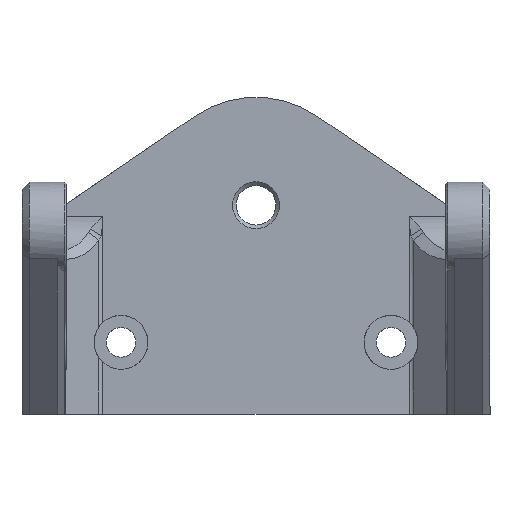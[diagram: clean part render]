
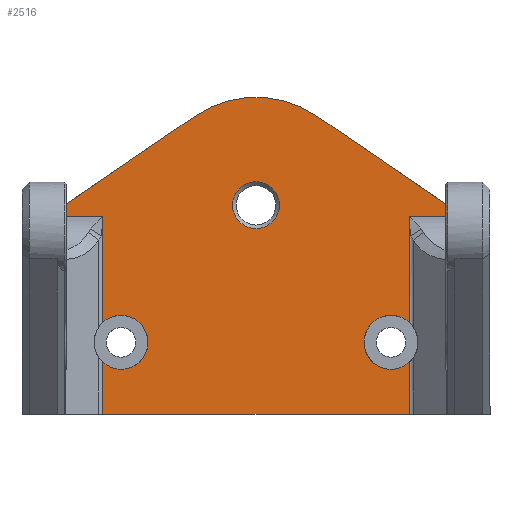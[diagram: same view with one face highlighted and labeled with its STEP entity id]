
A CAD part, top view. The second image highlights one B-rep face of the part: STEP entity #2516.
In plain terms, the highlighted planar face has unit normal (0, 0, 1).
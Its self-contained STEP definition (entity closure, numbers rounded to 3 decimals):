
#169=FACE_BOUND('',#411,.T.);
#183=PLANE('',#2707);
#251=FACE_OUTER_BOUND('',#410,.T.);
#410=EDGE_LOOP('',(#1788,#1789,#1790,#1791,#1792,#1793,#1794,#1795,#1796,
#1797,#1798,#1799,#1800));
#411=EDGE_LOOP('',(#1801));
#589=LINE('',#3775,#794);
#590=LINE('',#3777,#795);
#591=LINE('',#3781,#796);
#592=LINE('',#3783,#797);
#593=LINE('',#3785,#798);
#594=LINE('',#3791,#799);
#595=LINE('',#3793,#800);
#596=LINE('',#3795,#801);
#597=LINE('',#3798,#802);
#794=VECTOR('',#3047,10.);
#795=VECTOR('',#3048,10.);
#796=VECTOR('',#3051,10.);
#797=VECTOR('',#3052,10.);
#798=VECTOR('',#3053,10.);
#799=VECTOR('',#3058,10.);
#800=VECTOR('',#3059,10.);
#801=VECTOR('',#3060,10.);
#802=VECTOR('',#3063,10.);
#1001=CIRCLE('',#2706,2.6);
#1002=CIRCLE('',#2708,3.);
#1003=CIRCLE('',#2709,3.);
#1004=CIRCLE('',#2710,3.);
#1005=CIRCLE('',#2711,12.);
#1128=VERTEX_POINT('',#3769);
#1129=VERTEX_POINT('',#3773);
#1130=VERTEX_POINT('',#3774);
#1131=VERTEX_POINT('',#3776);
#1132=VERTEX_POINT('',#3778);
#1133=VERTEX_POINT('',#3780);
#1134=VERTEX_POINT('',#3782);
#1135=VERTEX_POINT('',#3784);
#1136=VERTEX_POINT('',#3786);
#1137=VERTEX_POINT('',#3788);
#1138=VERTEX_POINT('',#3790);
#1139=VERTEX_POINT('',#3792);
#1140=VERTEX_POINT('',#3794);
#1141=VERTEX_POINT('',#3796);
#1376=EDGE_CURVE('',#1128,#1128,#1001,.T.);
#1378=EDGE_CURVE('',#1129,#1130,#589,.T.);
#1379=EDGE_CURVE('',#1129,#1131,#590,.T.);
#1380=EDGE_CURVE('',#1131,#1132,#1002,.T.);
#1381=EDGE_CURVE('',#1133,#1132,#591,.T.);
#1382=EDGE_CURVE('',#1133,#1134,#592,.T.);
#1383=EDGE_CURVE('',#1135,#1134,#593,.T.);
#1384=EDGE_CURVE('',#1135,#1136,#1003,.T.);
#1385=EDGE_CURVE('',#1136,#1137,#1004,.T.);
#1386=EDGE_CURVE('',#1137,#1138,#594,.T.);
#1387=EDGE_CURVE('',#1139,#1138,#595,.T.);
#1388=EDGE_CURVE('',#1139,#1140,#596,.T.);
#1389=EDGE_CURVE('',#1140,#1141,#1005,.T.);
#1390=EDGE_CURVE('',#1141,#1130,#597,.T.);
#1788=ORIENTED_EDGE('',*,*,#1378,.F.);
#1789=ORIENTED_EDGE('',*,*,#1379,.T.);
#1790=ORIENTED_EDGE('',*,*,#1380,.T.);
#1791=ORIENTED_EDGE('',*,*,#1381,.F.);
#1792=ORIENTED_EDGE('',*,*,#1382,.T.);
#1793=ORIENTED_EDGE('',*,*,#1383,.F.);
#1794=ORIENTED_EDGE('',*,*,#1384,.T.);
#1795=ORIENTED_EDGE('',*,*,#1385,.T.);
#1796=ORIENTED_EDGE('',*,*,#1386,.T.);
#1797=ORIENTED_EDGE('',*,*,#1387,.F.);
#1798=ORIENTED_EDGE('',*,*,#1388,.T.);
#1799=ORIENTED_EDGE('',*,*,#1389,.T.);
#1800=ORIENTED_EDGE('',*,*,#1390,.T.);
#1801=ORIENTED_EDGE('',*,*,#1376,.F.);
#2516=ADVANCED_FACE('',(#251,#169),#183,.T.);
#2706=AXIS2_PLACEMENT_3D('',#3770,#3042,#3043);
#2707=AXIS2_PLACEMENT_3D('',#3772,#3045,#3046);
#2708=AXIS2_PLACEMENT_3D('',#3779,#3049,#3050);
#2709=AXIS2_PLACEMENT_3D('',#3787,#3054,#3055);
#2710=AXIS2_PLACEMENT_3D('',#3789,#3056,#3057);
#2711=AXIS2_PLACEMENT_3D('',#3797,#3061,#3062);
#3042=DIRECTION('center_axis',(0.,0.,1.));
#3043=DIRECTION('ref_axis',(-1.,0.,0.));
#3045=DIRECTION('center_axis',(0.,0.,1.));
#3046=DIRECTION('ref_axis',(-1.,0.,0.));
#3047=DIRECTION('',(-1.,0.,0.));
#3048=DIRECTION('',(0.,-1.,0.));
#3049=DIRECTION('center_axis',(0.,0.,-1.));
#3050=DIRECTION('ref_axis',(1.,0.,0.));
#3051=DIRECTION('',(0.,1.,0.));
#3052=DIRECTION('',(1.,0.,0.));
#3053=DIRECTION('',(0.,-1.,0.));
#3054=DIRECTION('center_axis',(0.,0.,-1.));
#3055=DIRECTION('ref_axis',(1.,0.,0.));
#3056=DIRECTION('center_axis',(0.,0.,-1.));
#3057=DIRECTION('ref_axis',(1.,0.,0.));
#3058=DIRECTION('',(0.,1.,0.));
#3059=DIRECTION('',(-1.,0.,0.));
#3060=DIRECTION('',(-0.826,0.564,0.));
#3061=DIRECTION('center_axis',(0.,0.,1.));
#3062=DIRECTION('ref_axis',(0.564,0.826,0.));
#3063=DIRECTION('',(-0.826,-0.564,0.));
#3769=CARTESIAN_POINT('',(-17.4,-19.3,48.475));
#3770=CARTESIAN_POINT('Origin',(-20.,-19.3,48.475));
#3772=CARTESIAN_POINT('Origin',(-20.,-24.917,48.475));
#3773=CARTESIAN_POINT('',(-37.051,-20.533,48.475));
#3774=CARTESIAN_POINT('',(-43.073,-20.533,48.475));
#3775=CARTESIAN_POINT('',(-33.,-20.533,48.475));
#3776=CARTESIAN_POINT('',(-37.051,-32.344,48.475));
#3777=CARTESIAN_POINT('',(-37.051,-26.104,48.475));
#3778=CARTESIAN_POINT('',(-37.051,-36.722,48.475));
#3779=CARTESIAN_POINT('Origin',(-35.,-34.533,48.475));
#3780=CARTESIAN_POINT('',(-37.051,-42.533,48.475));
#3781=CARTESIAN_POINT('',(-37.051,-26.104,48.475));
#3782=CARTESIAN_POINT('',(-2.949,-42.533,48.475));
#3783=CARTESIAN_POINT('',(-46.,-42.533,48.475));
#3784=CARTESIAN_POINT('',(-2.949,-36.722,48.475));
#3785=CARTESIAN_POINT('',(-2.949,-26.104,48.475));
#3786=CARTESIAN_POINT('',(-8.,-34.533,48.475));
#3787=CARTESIAN_POINT('Origin',(-5.,-34.533,48.475));
#3788=CARTESIAN_POINT('',(-2.949,-32.344,48.475));
#3789=CARTESIAN_POINT('Origin',(-5.,-34.533,48.475));
#3790=CARTESIAN_POINT('',(-2.949,-20.533,48.475));
#3791=CARTESIAN_POINT('',(-2.949,-26.104,48.475));
#3792=CARTESIAN_POINT('',(3.073,-20.533,48.475));
#3793=CARTESIAN_POINT('',(-33.,-20.533,48.475));
#3794=CARTESIAN_POINT('',(-13.229,-9.392,48.475));
#3795=CARTESIAN_POINT('',(6.,-22.533,48.475));
#3796=CARTESIAN_POINT('',(-26.771,-9.392,48.475));
#3797=CARTESIAN_POINT('Origin',(-20.,-19.3,48.475));
#3798=CARTESIAN_POINT('',(-46.,-22.533,48.475));
